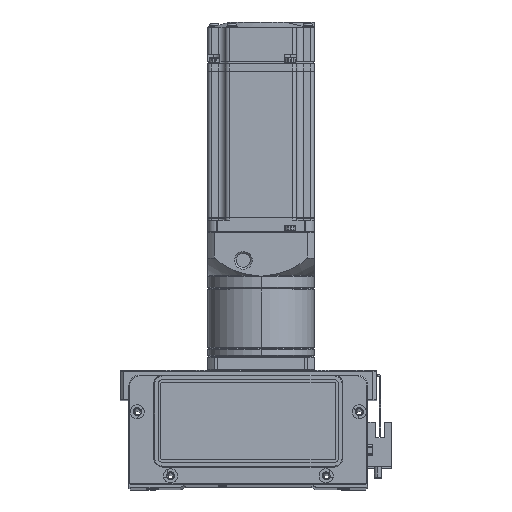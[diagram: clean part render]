
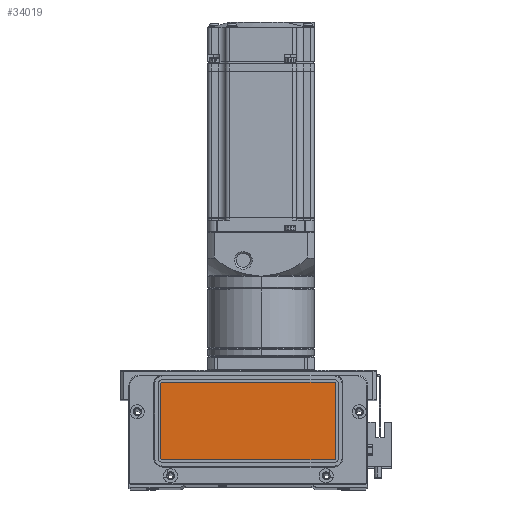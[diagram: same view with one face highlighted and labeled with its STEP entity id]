
A CAD part, top view. The second image highlights one B-rep face of the part: STEP entity #34019.
In plain terms, the highlighted planar face has unit normal (0, 0, 1) as drawn and (-1, 0, 0) by its records, which use the part's own axes.
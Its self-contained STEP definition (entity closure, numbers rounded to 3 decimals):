
#1070 = VECTOR ( 'NONE', #13701, 1000. ) ;
#1429 = CARTESIAN_POINT ( 'NONE',  ( -2., -35., 49.5 ) ) ;
#2069 = ORIENTED_EDGE ( 'NONE', *, *, #17891, .F. ) ;
#2558 = AXIS2_PLACEMENT_3D ( 'NONE', #48698, #21847, #53004 ) ;
#2998 = VECTOR ( 'NONE', #11973, 1000. ) ;
#3182 = CIRCLE ( 'NONE', #18683, 1. ) ;
#3203 = DIRECTION ( 'NONE',  ( 0., 0., 1. ) ) ;
#3549 = DIRECTION ( 'NONE',  ( 1., 0., 0. ) ) ;
#3705 = EDGE_CURVE ( 'NONE', #54597, #50729, #3182, .T. ) ;
#4279 = VECTOR ( 'NONE', #53017, 1000. ) ;
#5487 = VERTEX_POINT ( 'NONE', #38777 ) ;
#5624 = CARTESIAN_POINT ( 'NONE',  ( -2., 8., -48.5 ) ) ;
#5882 = CARTESIAN_POINT ( 'NONE',  ( -2., -35., -49.5 ) ) ;
#5916 = VERTEX_POINT ( 'NONE', #20867 ) ;
#5997 = ORIENTED_EDGE ( 'NONE', *, *, #13667, .F. ) ;
#6708 = DIRECTION ( 'NONE',  ( 0., 0., 1. ) ) ;
#10479 = CARTESIAN_POINT ( 'NONE',  ( -2., -36., -48.5 ) ) ;
#11973 = DIRECTION ( 'NONE',  ( 0., 0., 1. ) ) ;
#12809 = PLANE ( 'NONE',  #2558 ) ;
#12826 = CARTESIAN_POINT ( 'NONE',  ( -2., -35., 49.5 ) ) ;
#12976 = LINE ( 'NONE', #49022, #1070 ) ;
#13667 = EDGE_CURVE ( 'NONE', #5487, #54597, #12976, .T. ) ;
#13701 = DIRECTION ( 'NONE',  ( 0., 0., -1. ) ) ;
#16963 = VERTEX_POINT ( 'NONE', #49706 ) ;
#17891 = EDGE_CURVE ( 'NONE', #55031, #5487, #30354, .T. ) ;
#18683 = AXIS2_PLACEMENT_3D ( 'NONE', #29710, #34204, #43176 ) ;
#20223 = CARTESIAN_POINT ( 'NONE',  ( -2., 7., 48.5 ) ) ;
#20867 = CARTESIAN_POINT ( 'NONE',  ( -2., 8., 48.5 ) ) ;
#20999 = CARTESIAN_POINT ( 'NONE',  ( -2., 7., -48.5 ) ) ;
#21042 = VERTEX_POINT ( 'NONE', #37694 ) ;
#21847 = DIRECTION ( 'NONE',  ( 1., 0., 0. ) ) ;
#21934 = CARTESIAN_POINT ( 'NONE',  ( -2., 7., -49.5 ) ) ;
#23454 = ORIENTED_EDGE ( 'NONE', *, *, #55316, .F. ) ;
#23510 = DIRECTION ( 'NONE',  ( 0., 1., 0. ) ) ;
#25183 = VERTEX_POINT ( 'NONE', #5624 ) ;
#26751 = EDGE_CURVE ( 'NONE', #16963, #25183, #50406, .T. ) ;
#28667 = LINE ( 'NONE', #21934, #36351 ) ;
#28763 = AXIS2_PLACEMENT_3D ( 'NONE', #34880, #3549, #48997 ) ;
#29058 = EDGE_CURVE ( 'NONE', #5916, #21042, #50850, .T. ) ;
#29262 = DIRECTION ( 'NONE',  ( 1., 0., 0. ) ) ;
#29710 = CARTESIAN_POINT ( 'NONE',  ( -2., -35., -48.5 ) ) ;
#30354 = CIRCLE ( 'NONE', #28763, 1. ) ;
#34019 = ADVANCED_FACE ( 'NONE', ( #38790 ), #12809, .F. ) ;
#34204 = DIRECTION ( 'NONE',  ( 1., 0., 0. ) ) ;
#34880 = CARTESIAN_POINT ( 'NONE',  ( -2., -35., 48.5 ) ) ;
#34902 = CARTESIAN_POINT ( 'NONE',  ( -2., 8., 48.5 ) ) ;
#35326 = AXIS2_PLACEMENT_3D ( 'NONE', #20999, #52368, #3203 ) ;
#35510 = EDGE_CURVE ( 'NONE', #21042, #55031, #39296, .T. ) ;
#36351 = VECTOR ( 'NONE', #23510, 1000. ) ;
#37694 = CARTESIAN_POINT ( 'NONE',  ( -2., 7., 49.5 ) ) ;
#38777 = CARTESIAN_POINT ( 'NONE',  ( -2., -36., 48.5 ) ) ;
#38790 = FACE_OUTER_BOUND ( 'NONE', #47085, .T. ) ;
#39296 = LINE ( 'NONE', #12826, #4279 ) ;
#42909 = LINE ( 'NONE', #34902, #2998 ) ;
#43176 = DIRECTION ( 'NONE',  ( 0., 0., 1. ) ) ;
#44158 = ORIENTED_EDGE ( 'NONE', *, *, #29058, .F. ) ;
#44374 = ORIENTED_EDGE ( 'NONE', *, *, #3705, .F. ) ;
#47085 = EDGE_LOOP ( 'NONE', ( #23454, #48553, #57647, #44374, #5997, #2069, #58185, #44158 ) ) ;
#48553 = ORIENTED_EDGE ( 'NONE', *, *, #26751, .F. ) ;
#48698 = CARTESIAN_POINT ( 'NONE',  ( -2., 7., 48.5 ) ) ;
#48997 = DIRECTION ( 'NONE',  ( 0., 0., 1. ) ) ;
#49022 = CARTESIAN_POINT ( 'NONE',  ( -2., -36., -48.5 ) ) ;
#49706 = CARTESIAN_POINT ( 'NONE',  ( -2., 7., -49.5 ) ) ;
#50406 = CIRCLE ( 'NONE', #35326, 1. ) ;
#50729 = VERTEX_POINT ( 'NONE', #5882 ) ;
#50850 = CIRCLE ( 'NONE', #53804, 1. ) ;
#51113 = EDGE_CURVE ( 'NONE', #50729, #16963, #28667, .T. ) ;
#52368 = DIRECTION ( 'NONE',  ( 1., 0., 0. ) ) ;
#53004 = DIRECTION ( 'NONE',  ( 0., 0., -1. ) ) ;
#53017 = DIRECTION ( 'NONE',  ( 0., -1., 0. ) ) ;
#53804 = AXIS2_PLACEMENT_3D ( 'NONE', #20223, #29262, #6708 ) ;
#54597 = VERTEX_POINT ( 'NONE', #10479 ) ;
#55031 = VERTEX_POINT ( 'NONE', #1429 ) ;
#55316 = EDGE_CURVE ( 'NONE', #25183, #5916, #42909, .T. ) ;
#57647 = ORIENTED_EDGE ( 'NONE', *, *, #51113, .F. ) ;
#58185 = ORIENTED_EDGE ( 'NONE', *, *, #35510, .F. ) ;
